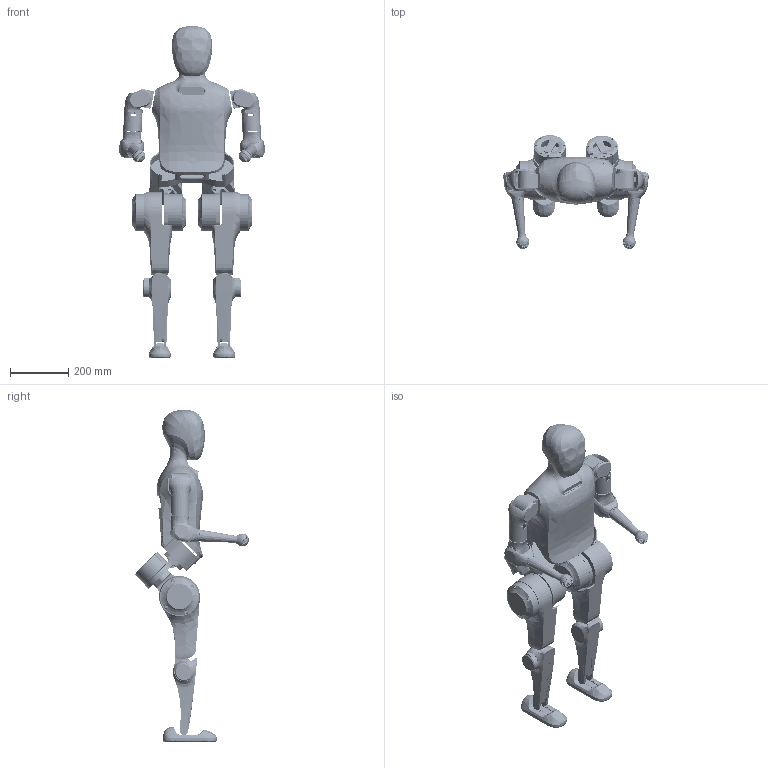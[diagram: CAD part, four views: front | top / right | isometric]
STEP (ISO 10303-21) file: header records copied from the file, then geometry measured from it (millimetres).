
FILE_DESCRIPTION((''),'2;1');
FILE_NAME('N2_0207_ASM_ASM','2025-11-05T10:40:21',('never'),(''),'CREO PARAMETRIC BY PTC INC, 2024063','CREO PARAMETRIC BY PTC INC, 2024063','');
FILE_SCHEMA(('CONFIG_CONTROL_DESIGN'));
Products named in the file (121): HIP_MOTOR_FIX_1; MOTOR_HIDE_PRINT_1; N2_BODY_N2_0207_ASM_1_ASM; HIP_ROLL_MOTOR_FIX_2_1; R_LEG_YAW_N2_0207_ASM_1_ASM; R_LEG_YAW_N2_020700_ASM_1; R_LEG_ROLL_N2_020700_ASM_1; SHELL_FOOT_N2_200_1; SHELL_FOOT_N2_300_1; SHELL_FOOT_N2_100_1; N2_SHELL_FOOT_FINA000_ASM_1_ASM; R_SHOULDER_ROLL_R_0001_ASM_2; R_SHOULDER_YAW_R_A0001_ASM_2; N2_ARM_BALL00_1; ELBOW_V200_1; ELBOW_R_ARM0001_ASM_2_ASM; R_SHOULDER_PITCH_R0001_ASM_2; R_ARM00_ASM_1_ASM; N2_SHELL_FRONT_2_1; DOCUMENT_A_1_2_3_ASM_ASM_2_ASM; N2_SHELL_BACK_3_1; N2_BODY_1202_1_ASM_ASM_1_ASM; N2_HEAD_1203_3_2_1; N2_HEAD_1203_3-2024208_ASM_2_ASM; N2_HEAD_1_ASM_ASM_2_ASM; DOCUMENT_A_1_2_3_4_5_ASM_ASM_2; N2_BODY_1202_-3_ASM_ASM_1_ASM; PRT0001_1; SHELL_N2_2024_FINAL_ASM_1_ASM; N2_LIGHT01_1; BATTERY_BOX_N2_1_1; BODY_1000_ASM_ASM_1_ASM; N2_1201_ASM_ASM_1_ASM; BATTERY_BOX_N2_3_1; N2_SHELL_BATTERY_FINAL_ASM_1_ASM; N2_SHELL_10020_100_1; CALF_PROTECT00_1; N2_SHELL_10020_2_1; PRT0010_1; PRT0009_1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
Assembly tree (126 placements, depth 7):
  N2_0207_ASM_ASM
    N2_0207_ASM_4_ASM
      N2_0207_1_ASM_1_ASM
        N2_BODY_N2_0207_ASM_1_ASM
          HIP_MOTOR_FIX_1
          MOTOR_HIDE_PRINT_1  x2
        R_LEG_YAW_N2_0207_ASM_1_ASM
          HIP_ROLL_MOTOR_FIX_2_1
        R_LEG_YAW_N2_020700_ASM_1
        R_LEG_ROLL_N2_020700_ASM_1
        N2_SHELL_FOOT_FINA000_ASM_1_ASM
          SHELL_FOOT_N2_200_1
          SHELL_FOOT_N2_300_1
          SHELL_FOOT_N2_100_1
        R_ARM00_ASM_1_ASM
          R_SHOULDER_ROLL_R_0001_ASM_2
          R_SHOULDER_YAW_R_A0001_ASM_2
          ELBOW_R_ARM0001_ASM_2_ASM
            N2_ARM_BALL00_1
            ELBOW_V200_1
          R_SHOULDER_PITCH_R0001_ASM_2
        SHELL_N2_2024_FINAL_ASM_1_ASM
          N2_BODY_1202_1_ASM_ASM_1_ASM
            N2_SHELL_FRONT_2_1
            DOCUMENT_A_1_2_3_ASM_ASM_2_ASM
            N2_SHELL_BACK_3_1
          N2_HEAD_1_ASM_ASM_2_ASM
            N2_HEAD_1203_3-2024208_ASM_2_ASM
              N2_HEAD_1203_3_2_1
          N2_BODY_1202_-3_ASM_ASM_1_ASM
            DOCUMENT_A_1_2_3_4_5_ASM_ASM_2
          PRT0001_1
        N2_SHELL_BATTERY_FINAL_ASM_1_ASM
          N2_LIGHT01_1  x4
          N2_1201_ASM_ASM_1_ASM
            BODY_1000_ASM_ASM_1_ASM
              BATTERY_BOX_N2_1_1
          BATTERY_BOX_N2_3_1
        N2_SHELL_10020_100_1
        CALF_PROTECT00_1
        N2_SHELL_10020_2_1
        N2_SHELL_8112_L_ASM_1_ASM
          PRT0010_1
          PRT0009_1
        N2_SHELL_FOOT_FINAL_ASM_1_ASM
          SHELL_FOOT_N2_3_1
          SHELL_FOOT_N2_1_1
          SHELL_FOOT_N2_2_1
        R_LEG_ASM_1_ASM
          R_THIGH_ASM_1_ASM
            THIGH_2_R2_1
            THIGH_1_R2_1
            M800_1
          R_CALF_ASM_2_ASM
            CALF_1_1
          R_FOOT_N2_0207_ASM_1_ASM
        R_LEG00_ASM_1_ASM
          R_THIGH00_ASM_1_ASM
            M80002_1
          R_FOOT_N2_020700_ASM_1_ASM
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Bounding box: 499.24 x 390.73 x 1139.08 mm (x, y, z)
Volume: 12778014.1 mm3; surface area: 2669214.2 mm2
Topology: 80 solids, 230 shells, 9523 faces, 25685 edges, 16820 vertices
Faces by surface type: plane 3382, cylinder 3296, bspline 1977, cone 458, extrusion 201, torus 176, revolution 23, sphere 10
Entity records: 461649 total; most frequent: CARTESIAN_POINT 238509, ORIENTED_EDGE 50269, DIRECTION 40107, EDGE_CURVE 25200, VERTEX_POINT 16552, AXIS2_PLACEMENT_3D 14779, VECTOR 10526, LINE 10325
